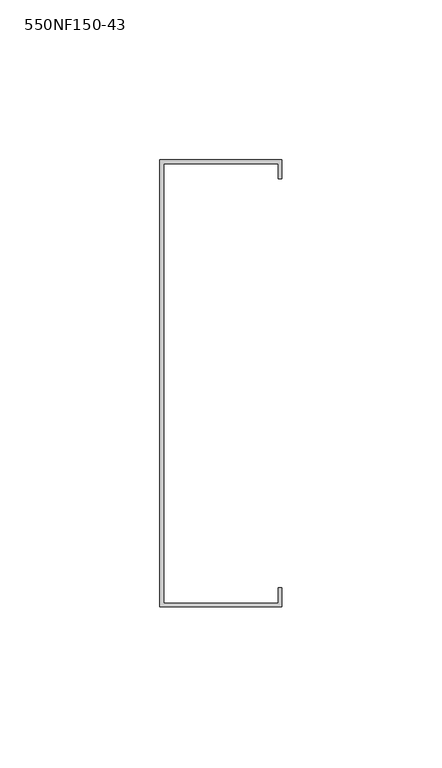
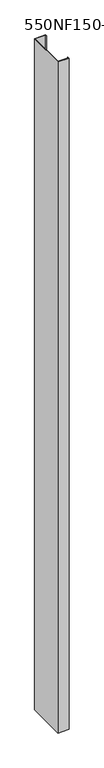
"""IFC4 building model written with IfcOpenShell, lengths in millimetres: column geometry, BIMSF-SSMA-S-Column : 550NF150-43."""

from ifc_helpers import new_model, si_unit, frame, origin, place, context, project, spatial, polyline, outline, extrude, source, transform, mapped, element, save


def column_550nf150_43_e978d052(model_context):
    return source(origin(), model_context, "Body", "SweptSolid", [
        extrude(outline(polyline([(-11.9977877, -80.5871249), (-11.9977877, 59.1128751), (26.1022123, 59.1128751), (26.1022123, 53.1879908), (24.952528, 53.1879908), (24.952528, 57.9631908), (-10.8481035, 57.9631908), (-10.8481035, -79.4374407), (24.952528, -79.4374407), (24.952528, -74.6622407), (26.1022123, -74.6622407), (26.1022123, -80.5871249), (-11.9977877, -80.5871249)])), frame((0.0, 0.0, 3061.5929687), z_axis=(0.0, 0.0, 1.0), x_axis=(1.0, 0.0, 0.0)), (0.0, 0.0, 1.0), 2462.0140625),
    ])


if __name__ == "__main__":
    model = new_model("IFC4")
    model_context = context("Model", 3, world=origin())
    ifc_project = project(units=[si_unit("LENGTHUNIT", "METRE", prefix="MILLI")], contexts=[model_context])
    site = spatial("IfcSite", under=ifc_project)
    building = spatial("IfcBuilding", under=site)
    placement = place(None, origin())
    column_550nf150_43_shape = column_550nf150_43_e978d052(model_context)
    element("IfcColumn", 1, ObjectType="BIMSF-SSMA-S-Column : 550NF150-43", at=placement, inside=building, context=model_context, shape_type="MappedRepresentation", body=[
        mapped(column_550nf150_43_shape, transform((0.0, 0.0, 0.0), x_axis=(1.0, 0.0, 0.0), y_axis=(0.0, 1.0, 0.0), z_axis=(0.0, 0.0, 1.0))),
    ])
    save(model, "model.ifc")
